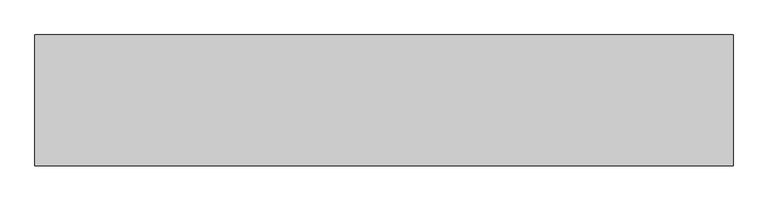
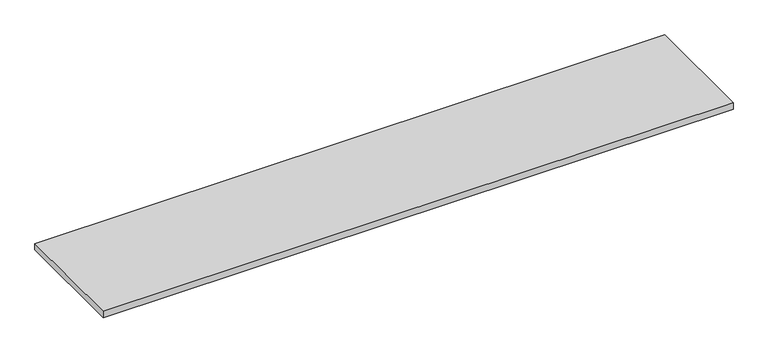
"""IFC4 building model written with IfcOpenShell, lengths in millimetres: proxy geometry, FOUNDATION^OPEN OFFICE 2_12.94x68.94-TACKBOARD."""

from ifc_helpers import new_model, si_unit, origin, origin_with_axes, place, context, project, spatial, polyline, outline, extrude, source, transform, mapped, element, save


def generic_models_7659658e(model_context):
    return source(origin(), model_context, "Body", "SweptSolid", [
        extrude(outline(polyline([(1751.0125, 328.6125), (1751.0125, 0.0), (0.0, 0.0), (0.0, 328.6125), (1751.0125, 328.6125)])), origin_with_axes(), (0.0, 0.0, 1.0), 19.05),
    ])


if __name__ == "__main__":
    model = new_model("IFC4")
    model_context = context("Model", 3, world=origin())
    ifc_project = project(units=[si_unit("LENGTHUNIT", "METRE", prefix="MILLI")], contexts=[model_context])
    site = spatial("IfcSite", under=ifc_project)
    building = spatial("IfcBuilding", under=site)
    placement = place(None, origin())
    generic_models_shape = generic_models_7659658e(model_context)
    element("IfcBuildingElementProxy", 1, Name="FOUNDATION^OPEN OFFICE 2_12.94x68.94-TACKBOARD", ObjectType="FOUNDATION^OPEN OFFICE 2_12.94x68.94-TACKBOARD", at=placement, inside=building, context=model_context, shape_type="MappedRepresentation", body=[
        mapped(generic_models_shape, transform((0.0, 0.0, 0.0), x_axis=(1.0, 0.0, 0.0), y_axis=(0.0, 1.0, 0.0), z_axis=(0.0, 0.0, 1.0))),
    ])
    save(model, "model.ifc")
